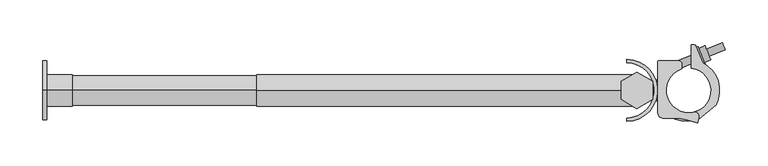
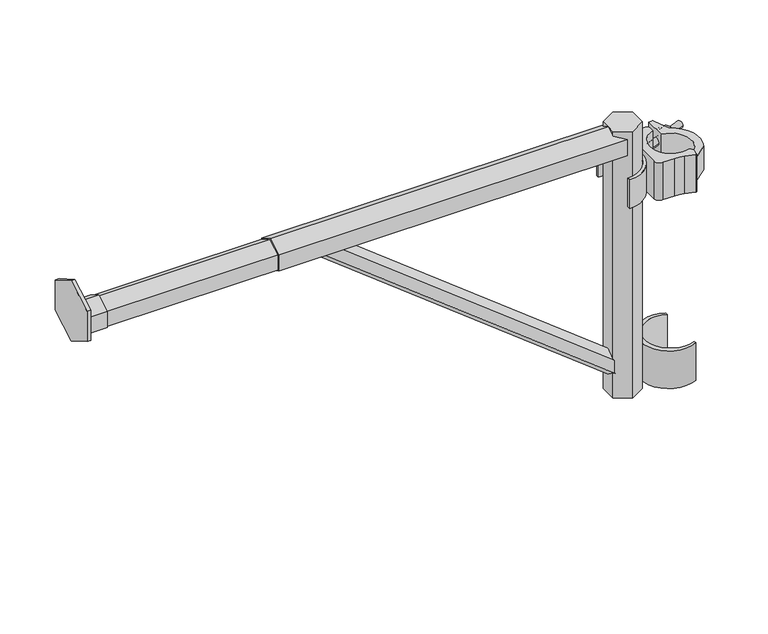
"""IFC4 building model written with IfcOpenShell, lengths in millimetres: proxy geometry, AK_伸縮ブラケット750_軽 : AK_伸縮ブラケット750_軽."""

import ifcopenshell
import ifcopenshell.guid

model = None  # the IFC model being written
_history = None  # IfcOwnerHistory: only IFC2X3 demands one
_inside = {}  # id of a spatial element -> (the spatial element, [elements in it])
_under = {}  # id of a project, library or spatial element -> (it, [spatial elements below it])
_declared = {}  # id of a project -> (the project, [libraries it declares])
_typed = {}  # id of a type object -> (the type object, [elements of that type])
_made_of = {}  # id of a material, layer set ... -> (it, [elements and type objects made of it])


def new_model(schema):
    """Start an empty IFC model of exactly this schema.

    Asked for "IFC4X3", IfcOpenShell would pick the latest addendum, in which some entities
    have other attributes; the version numbers below select the first issue.
    IFC2X3 requires an IfcOwnerHistory on every rooted entity: one is made here for all.
    """
    global model, _history
    if schema == "IFC4X3":
        model = ifcopenshell.file(schema_version=(4, 3, 0, 0))
    else:
        model = ifcopenshell.file(schema=schema)
    _inside.clear()
    _under.clear()
    _declared.clear()
    _typed.clear()
    _made_of.clear()
    _history = None
    if model.schema == "IFC2X3":
        org = make("IfcOrganization", Name="unknown")
        user = make(
            "IfcPersonAndOrganization",
            ThePerson=make("IfcPerson", FamilyName="unknown"),
            TheOrganization=org,
        )
        app = make(
            "IfcApplication",
            ApplicationDeveloper=org,
            Version="unknown",
            ApplicationFullName="unknown",
            ApplicationIdentifier="unknown",
        )
        _history = make(
            "IfcOwnerHistory",
            OwningUser=user,
            OwningApplication=app,
            ChangeAction="ADDED",
            CreationDate=0,
        )
    return model


def make(cls, **values):
    """One entity of the class cls with the attributes given. An attribute that is None is left unset."""
    return model.create_entity(
        cls, **{name: value for name, value in values.items() if value is not None}
    )


def rooted(cls, **values):
    """An entity with a GlobalId (a new one), such as an element, a storey or a relation."""
    return make(cls, GlobalId=ifcopenshell.guid.new(), OwnerHistory=_history, **values)


def si_unit(unit_type, name, prefix=None):
    """IfcSIUnit, for example si_unit("LENGTHUNIT", "METRE", prefix="MILLI")."""
    return make("IfcSIUnit", UnitType=unit_type, Prefix=prefix, Name=name)


def assignment(units):
    """IfcUnitAssignment: the units of a project."""
    return None if units is None else make("IfcUnitAssignment", Units=units)


def point(xyz):
    """IfcCartesianPoint."""
    return None if xyz is None else make("IfcCartesianPoint", Coordinates=xyz)


def direction(xyz):
    """IfcDirection."""
    return None if xyz is None else make("IfcDirection", DirectionRatios=xyz)


def frame(location, z_axis=None, x_axis=None):
    """IfcAxis2Placement3D, a coordinate frame: its origin and axes. An axis left out is left unset."""
    return make(
        "IfcAxis2Placement3D",
        Location=point(location),
        Axis=direction(z_axis),
        RefDirection=direction(x_axis),
    )


def frame_2d(location, x_axis=None):
    """IfcAxis2Placement2D, a coordinate frame in the plane: its origin and x axis."""
    return make(
        "IfcAxis2Placement2D", Location=point(location), RefDirection=direction(x_axis)
    )


def origin():
    """The frame at (0, 0, 0) with its axes left unset."""
    return frame((0.0, 0.0, 0.0))


def place(relative_to, where):
    """IfcLocalPlacement: puts the frame where relative to a parent placement (None: the world)."""
    return make(
        "IfcLocalPlacement", PlacementRelTo=relative_to, RelativePlacement=where
    )


def context(
    kind, dimensions, precision=None, world=None, true_north=None, identifier=None
):
    """IfcGeometricRepresentationContext, for example the 3D "Model" context."""
    return make(
        "IfcGeometricRepresentationContext",
        ContextIdentifier=identifier,
        ContextType=kind,
        CoordinateSpaceDimension=dimensions,
        Precision=precision,
        WorldCoordinateSystem=world,
        TrueNorth=true_north,
    )


def project(units=None, contexts=None):
    """IfcProject with its units and contexts."""
    return rooted(
        "IfcProject",
        Name="project",
        RepresentationContexts=contexts,
        UnitsInContext=assignment(units),
    )


def spatial(cls, under=None, at=None, **own):
    """A site, building, storey or space (cls), placed at a placement, below another one or the project."""
    s = rooted(cls, ObjectPlacement=at, **own)
    if under is not None:
        _under.setdefault(under.id(), (under, []))[1].append(s)
    return s


def polyline(points):
    """IfcPolyline through the points."""
    return make("IfcPolyline", Points=[point(p) for p in points])


def circle_curve(where, radius):
    """IfcCircle in the frame where."""
    return make("IfcCircle", Position=where, Radius=radius)


def trimmed(basis, trim1, trim2, sense, master):
    """IfcTrimmedCurve: the piece of a basis curve between two trims."""
    return make(
        "IfcTrimmedCurve",
        BasisCurve=basis,
        Trim1=trim1,
        Trim2=trim2,
        SenseAgreement=sense,
        MasterRepresentation=master,
    )


def segment(curve, same_sense, transition):
    """IfcCompositeCurveSegment."""
    return make(
        "IfcCompositeCurveSegment",
        Transition=transition,
        SameSense=same_sense,
        ParentCurve=curve,
    )


def composite_curve(segments, self_intersect=None):
    """IfcCompositeCurve: segments joined end to end."""
    return make("IfcCompositeCurve", Segments=segments, SelfIntersect=self_intersect)


def outline(outer, holes=None, kind="AREA"):
    """IfcArbitraryClosedProfileDef: a profile drawn as a closed curve; with holes, ...WithVoids."""
    if holes is None:
        return make("IfcArbitraryClosedProfileDef", ProfileType=kind, OuterCurve=outer)
    return make(
        "IfcArbitraryProfileDefWithVoids",
        ProfileType=kind,
        OuterCurve=outer,
        InnerCurves=holes,
    )


def extrude(swept, where, along, depth):
    """IfcExtrudedAreaSolid: the profile swept, set in the frame where, extruded along a direction by depth."""
    return make(
        "IfcExtrudedAreaSolid",
        SweptArea=swept,
        Position=where,
        ExtrudedDirection=direction(along),
        Depth=depth,
    )


def faces_of(points, faces, orient=None, outer=None):
    """IfcFace entities. A face is a list of loops; a loop is a list of indices into points, from 0.

    orient and outer hold one flag for each loop. By default every Orientation is true, the
    first loop of a face is its IfcFaceOuterBound and the others are IfcFaceBound.
    """
    made = []
    for i, loops in enumerate(faces):
        bounds = []
        for j, loop in enumerate(loops):
            is_outer = j == 0 if outer is None else outer[i][j]
            bounds.append(
                make(
                    "IfcFaceOuterBound" if is_outer else "IfcFaceBound",
                    Bound=make("IfcPolyLoop", Polygon=[points[k] for k in loop]),
                    Orientation=True if orient is None else orient[i][j],
                )
            )
        made.append(make("IfcFace", Bounds=bounds))
    return made


def faceted_brep(points, faces, orient=None, outer=None, voids=None):
    """IfcFacetedBrep: a solid bounded by flat faces; with voids (closed shells), ...WithVoids."""
    shared = [point(p) for p in points]
    hull = make("IfcClosedShell", CfsFaces=faces_of(shared, faces, orient, outer))
    if voids is None:
        return make("IfcFacetedBrep", Outer=hull)
    return make(
        "IfcFacetedBrepWithVoids",
        Outer=hull,
        Voids=[
            make(cls, CfsFaces=faces_of(shared, fs, o, b)) for cls, fs, o, b in voids
        ],
    )


def shape(context_of_items, identifier, shape_type, items):
    """IfcShapeRepresentation: the items that make up one representation, for example the "Body"."""
    return make(
        "IfcShapeRepresentation",
        ContextOfItems=context_of_items,
        RepresentationIdentifier=identifier,
        RepresentationType=shape_type,
        Items=items,
    )


def source(mapping_origin, context_of_items, identifier, shape_type, items):
    """IfcRepresentationMap: a shape defined once, which mapped items show again and again."""
    return make(
        "IfcRepresentationMap",
        MappingOrigin=mapping_origin,
        MappedRepresentation=shape(context_of_items, identifier, shape_type, items),
    )


def transform(
    local_origin,
    x_axis=None,
    y_axis=None,
    z_axis=None,
    scale=None,
    scale2=None,
    scale3=None,
    uniform=True,
):
    """IfcCartesianTransformationOperator3D, or its non-uniform kind. x_axis, y_axis, z_axis: its Axis1, 2, 3."""
    if uniform:
        return make(
            "IfcCartesianTransformationOperator3D",
            Axis1=direction(x_axis),
            Axis2=direction(y_axis),
            LocalOrigin=point(local_origin),
            Scale=scale,
            Axis3=direction(z_axis),
        )
    return make(
        "IfcCartesianTransformationOperator3DnonUniform",
        Axis1=direction(x_axis),
        Axis2=direction(y_axis),
        LocalOrigin=point(local_origin),
        Scale=scale,
        Axis3=direction(z_axis),
        Scale2=scale2,
        Scale3=scale3,
    )


def mapped(mapping_source, mapping_target):
    """IfcMappedItem: shows the shape of a source again, moved by a transform."""
    return make(
        "IfcMappedItem", MappingSource=mapping_source, MappingTarget=mapping_target
    )


def made_of(thing, what):
    """Note that an element or type object is made of a material, layer set ...; save() writes the relation."""
    if what is not None:
        _made_of.setdefault(what.id(), (what, []))[1].append(thing)
    return thing


def element(
    cls,
    number,
    at=None,
    inside=None,
    cuts=None,
    type_object=None,
    material=None,
    context=None,
    identifier="Body",
    shape_type=None,
    held_by="IfcProductDefinitionShape",
    body=None,
    shapes=None,
    **own,
):
    """One element of the class cls, such as IfcWall. Its Tag is "e" and its number.

    at: its placement. inside: the storey or other place that contains it. cuts: it is an
    opening in that element (IfcRelVoidsElement). A single representation is given by context,
    identifier, shape_type and body (its items); several are given by shapes. held_by: the class
    of the entity that holds the representations. save() writes the other relations.
    """
    e = rooted(cls, Tag="e%d" % number, ObjectPlacement=at, **own)
    if body is not None:
        shapes = [shape(context, identifier, shape_type, body)]
    if shapes is not None:
        e.Representation = make(held_by, Representations=shapes)
    if inside is not None:
        _inside.setdefault(inside.id(), (inside, []))[1].append(e)
    if cuts is not None:
        rooted(
            "IfcRelVoidsElement", RelatingBuildingElement=cuts, RelatedOpeningElement=e
        )
    if type_object is not None:
        _typed.setdefault(type_object.id(), (type_object, []))[1].append(e)
    return made_of(e, material)


def aggregate(whole, parts):
    """IfcRelAggregates: a whole, such as a stair, and the parts it consists of."""
    return rooted("IfcRelAggregates", RelatingObject=whole, RelatedObjects=parts)


def save(model, path):
    """Write the relations noted so far, then the file.

    IfcRelAggregates (storeys below a building ...), IfcRelContainedInSpatialStructure (elements
    in a storey), IfcRelDefinesByType, IfcRelAssociatesMaterial and IfcRelDeclares: one each for
    every whole, place, type object, material and project.
    """
    for whole, parts in _under.values():
        aggregate(whole, parts)
    for where, things in _inside.values():
        rooted(
            "IfcRelContainedInSpatialStructure",
            RelatedElements=things,
            RelatingStructure=where,
        )
    for kind, things in _typed.values():
        rooted("IfcRelDefinesByType", RelatedObjects=things, RelatingType=kind)
    for what, things in _made_of.values():
        rooted("IfcRelAssociatesMaterial", RelatedObjects=things, RelatingMaterial=what)
    for by, libraries in _declared.values():
        rooted("IfcRelDeclares", RelatingContext=by, RelatedDefinitions=libraries)
    model.write(path)


def plane_surface(at):
    """IfcPlane: the flat surface through the origin of the frame at, square to its z axis."""
    return make("IfcPlane", Position=at)


def cylinder_surface(at, radius):
    """IfcCylindricalSurface: all points at the distance radius from the z axis of the frame at."""
    return make("IfcCylindricalSurface", Position=at, Radius=radius)


def revolved_surface(curve, axis_point, axis_direction):
    """IfcSurfaceOfRevolution: the curve turned about the line through axis_point along axis_direction."""
    return make(
        "IfcSurfaceOfRevolution",
        SweptCurve=make("IfcArbitraryOpenProfileDef", ProfileType="CURVE", Curve=curve),
        AxisPosition=make("IfcAxis1Placement", Location=point(axis_point), Axis=direction(axis_direction)),
    )


def advanced_brep(points, edges, surfaces, faces):
    """IfcAdvancedBrep: a solid bounded by faces that lie on surfaces and meet in shared edges.

    An edge is (start, end): straight between two places in points (the first is 0);
    or (start, end, curve); or (start, end, curve, False) where it runs against its curve.
    A face is (place in surfaces, loops), or (place, loops, False) where it looks against
    its surface's normal. A loop lists edges by number (the first is 1), with a minus sign
    where the edge is run from its end to its start. The first loop is the outer one.
    """
    corners = [point(p) for p in points]
    vertices = [make("IfcVertexPoint", VertexGeometry=c) for c in corners]
    made = []
    for start, end, *more in edges:
        made.append(
            make(
                "IfcEdgeCurve",
                EdgeStart=vertices[start],
                EdgeEnd=vertices[end],
                EdgeGeometry=more[0] if more else make("IfcPolyline", Points=[corners[start], corners[end]]),
                SameSense=more[1] if len(more) > 1 else True,
            )
        )
    hull = []
    for where, loops, *sense in faces:
        bounds = []
        for j, loop in enumerate(loops):
            ring = [make("IfcOrientedEdge", EdgeElement=made[abs(k) - 1], Orientation=k > 0) for k in loop]
            bounds.append(
                make(
                    "IfcFaceOuterBound" if j == 0 else "IfcFaceBound",
                    Bound=make("IfcEdgeLoop", EdgeList=ring),
                    Orientation=True,
                )
            )
        hull.append(make("IfcAdvancedFace", Bounds=bounds, FaceSurface=surfaces[where], SameSense=sense[0] if sense else True))
    return make("IfcAdvancedBrep", Outer=make("IfcClosedShell", CfsFaces=hull))


def generic_models_3d49bad1(model_context):
    return source(origin(), model_context, "Body", "SolidModel", [
        faceted_brep([(-504.3999998, -18.4896424, 10.675), (-504.3999998, 0.0, 21.35), (-504.3999998, 18.4896424, 10.675), (-504.3999998, 18.4896424, -10.675), (-504.3999998, 0.0, -21.35), (-504.3999998, -18.4896424, -10.675), (-41.8603576, 10.675, 21.35), (-60.35, 21.35, 21.35), (-78.8396424, 10.675, 21.35), (-78.8396424, 0.0, 21.35), (-78.8396424, -10.675, 21.35), (-60.35, -21.35, 21.35), (-41.8603576, -10.675, 21.35), (-41.8603576, 10.675, -333.65), (-41.8603576, -10.675, -333.65), (-60.35, -21.35, -333.65), (-78.8396424, -10.675, -333.65), (-78.8396424, 10.675, -333.65), (-60.35, 21.35, -333.65), (-65.3042847, -18.4896424, -10.675), (-65.3042847, -18.4896424, 10.675), (-78.8396424, 0.0, -21.35), (-78.8396424, -10.675, -15.1867859), (-65.3042847, 18.4896424, -10.675), (-78.8396424, 10.675, -15.1867859), (-65.3042847, 18.4896424, 10.675), (-78.8396424, 10.675, 15.1867859), (-78.8396424, -10.675, 15.1867859)], [[[0, 1, 2, 3, 4, 5]], [[6, 7, 8, 9, 10, 11, 12]], [[13, 14, 15, 16, 17, 18]], [[0, 5, 19, 20]], [[5, 4, 21, 22, 19]], [[4, 3, 23, 24, 21]], [[3, 2, 25, 23]], [[2, 1, 9, 26, 25]], [[1, 0, 20, 27, 9]], [[6, 12, 14, 13]], [[12, 11, 15, 14]], [[11, 10, 27, 20, 19, 22, 16, 15]], [[9, 8, 26]], [[10, 9, 27]], [[17, 16, 22, 21, 24]], [[8, 7, 18, 17, 24, 23, 25, 26]], [[7, 6, 13, 18]]]),
        faceted_brep([(-404.0, 17.3205081, 10.0), (-404.0, 0.0, 20.0), (-404.0, -17.3205081, 10.0), (-404.0, -17.3205081, -10.0), (-404.0, 0.0, -20.0), (-404.0, 17.3205081, -10.0), (-720.0, 18.4896424, 10.675), (-720.0, 0.0, 21.35), (-720.0, -18.4896424, 10.675), (-720.0, -18.4896424, -10.675), (-720.0, 0.0, -21.35), (-720.0, 18.4896424, -10.675), (-720.0, 17.3205081, 10.0), (-720.0, 17.3205081, -10.0), (-720.0, 0.0, -20.0), (-720.0, -17.3205081, -10.0), (-720.0, -17.3205081, 10.0), (-720.0, 0.0, 20.0), (-754.6000002, 34.6410162, 32.85), (-754.6000002, 34.6410162, -7.15), (-754.6000002, 0.0, -27.15), (-754.6000002, -34.6410162, -7.15), (-754.6000002, -34.6410162, 32.85), (-754.6000002, 0.0, 52.85), (-750.0, 34.6410162, 32.85), (-750.0, 0.0, 52.85), (-750.0, -34.6410162, 32.85), (-750.0, -34.6410162, -7.15), (-750.0, 0.0, -27.15), (-750.0, 34.6410162, -7.15), (-750.0, 18.4896424, 10.675), (-750.0, 18.4896424, -10.675), (-750.0, 0.0, -21.35), (-750.0, -18.4896424, -10.675), (-750.0, -18.4896424, 10.675), (-750.0, 0.0, 21.35)], [[[0, 1, 2, 3, 4, 5]], [[6, 7, 8, 9, 10, 11], [12, 13, 14, 15, 16, 17]], [[18, 19, 20, 21, 22, 23]], [[24, 25, 26, 27, 28, 29], [30, 31, 32, 33, 34, 35]], [[0, 5, 13, 12]], [[5, 4, 14, 13]], [[4, 3, 15, 14]], [[3, 2, 16, 15]], [[2, 1, 17, 16]], [[1, 0, 12, 17]], [[6, 11, 31, 30]], [[11, 10, 32, 31]], [[10, 9, 33, 32]], [[9, 8, 34, 33]], [[8, 7, 35, 34]], [[7, 6, 30, 35]], [[19, 18, 24, 29]], [[20, 19, 29, 28]], [[21, 20, 28, 27]], [[22, 21, 27, 26]], [[23, 22, 26, 25]], [[18, 23, 25, 24]]]),
        extrude(outline(composite_curve([segment(trimmed(circle_curve(frame_2d((-72.4772304, 0.0)), 32.35), [point((-72.4772304, -32.35))], [point((-72.4772304, 32.35))], True, "CARTESIAN"), True, "CONTINUOUS"), segment(polyline([(-72.4772304, 32.35), (-72.4772304, 36.239624)]), True, "CONTINUOUS"), segment(trimmed(circle_curve(frame_2d((-72.4772304, 0.0)), 36.239624), [point((-72.4772304, 36.239624))], [point((-72.4772304, -36.239624))], False, "CARTESIAN"), True, "CONTINUOUS"), segment(polyline([(-72.4772304, -36.239624), (-72.4772304, -32.35)]), True, "CONTINUOUS")], self_intersect=False)), frame((0.0, 0.0, -67.65), z_axis=(0.0, 0.0, 1.0), x_axis=(1.0, 0.0, 0.0)), (0.0, 0.0, 1.0), 38.0),
        extrude(outline(polyline([(0.0, 0.0), (13.6, 0.0), (20.4, -11.7779455), (13.6, -23.555891), (0.0, -23.555891), (-6.8, -11.7779455), (0.0, 0.0)])), frame((-63.6563584, -11.7779455, -294.1763247), z_axis=(-0.7876247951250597, 0.0, 0.6161551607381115), x_axis=(-0.6161551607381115, 0.0, -0.7876247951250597)), (0.0, 0.0, 1.0), 473.9143543),
        extrude(outline(composite_curve([segment(polyline([(12.8278662, -29.48023), (12.8278662, -32.6775639)]), True, "CONTINUOUS"), segment(trimmed(circle_curve(frame_2d((-2.787596, -0.0050136)), 36.212404), [point((12.8278662, -32.6775639))], [point((12.6094193, 32.7710466))], False, "CARTESIAN"), True, "CONTINUOUS"), segment(polyline([(12.6094193, 32.7710466), (12.6094193, 29.6503278)]), True, "CONTINUOUS"), segment(trimmed(circle_curve(frame_2d((-0.3482518, 0.0367756)), 32.3243517), [point((12.6094193, 29.6503278))], [point((12.8278662, -29.48023))], True, "CARTESIAN"), True, "CONTINUOUS")], self_intersect=False)), frame((0.0, 0.0, -328.65), z_axis=(0.0, 0.0, 1.0), x_axis=(1.0, 0.0, 0.0)), (0.0, 0.0, 1.0), 50.0),
        advanced_brep(
        [(-9.2308684, 26.118126, -48.65), (-12.615213, 34.457563, -48.65), (11.5789843, 44.2761518, -48.65), (14.963329, 35.9367148, -48.65), (-10.9230407, 30.2878445, -48.65), (42.761451, 47.2178639, -48.65), (39.3771068, 55.5572996, -48.65), (41.0692789, 51.3875817, -48.65), (24.229369, 39.6970964, -48.65), (20.8450237, 48.036535, -48.65), (25.921541, 35.5273788, -48.65), (19.1528517, 52.2062526, -48.65), (18.5087077, 32.5190735, -48.65), (11.7400193, 49.1979451, -48.65), (19.260785, 30.6658636, -48.65), (10.9879421, 51.051155, -48.65), (17.4075743, 29.913793, -48.65), (9.1347363, 50.2990724, -48.65)],
        [
            (0, 1, circle_curve(frame((-10.9230407, 30.2878445, -48.65), z_axis=(0.9266041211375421, 0.37603829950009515, 0.0), x_axis=(-0.37603829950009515, 0.9266041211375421, 0.0)), 4.4999999)),
            (1, 2),
            (2, 3, circle_curve(frame((13.2711567, 40.1064333, -48.65), z_axis=(-0.9266041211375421, -0.37603829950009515, 0.0), x_axis=(-0.37603829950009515, 0.9266041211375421, 0.0)), 4.4999999)),
            (3, 0),
            (1, 0, circle_curve(frame((-10.9230407, 30.2878445, -48.65), z_axis=(0.9266041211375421, 0.37603829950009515, 0.0), x_axis=(-0.37603829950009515, 0.9266041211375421, 0.0)), 4.4999999)),
            (3, 2, circle_curve(frame((13.2711567, 40.1064333, -48.65), z_axis=(-0.9266041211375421, -0.37603829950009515, 0.0), x_axis=(-0.37603829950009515, 0.9266041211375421, 0.0)), 4.4999999)),
            (4, 1),
            (0, 4),
            (5, 6, circle_curve(frame((41.0692789, 51.3875817, -48.65), z_axis=(0.9266041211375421, 0.37603829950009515, 0.0), x_axis=(-0.37603829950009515, 0.9266041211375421, 0.0)), 4.4999993)),
            (6, 7),
            (7, 5),
            (6, 5, circle_curve(frame((41.0692789, 51.3875817, -48.65), z_axis=(0.9266041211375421, 0.37603829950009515, 0.0), x_axis=(-0.37603829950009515, 0.9266041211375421, 0.0)), 4.4999993)),
            (8, 9, circle_curve(frame((22.5371964, 43.8668157, -48.65), z_axis=(0.9266041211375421, 0.37603829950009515, 0.0), x_axis=(-0.37603829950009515, 0.9266041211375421, 0.0)), 4.5000008)),
            (9, 6),
            (5, 8),
            (9, 8, circle_curve(frame((22.5371964, 43.8668157, -48.65), z_axis=(0.9266041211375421, 0.37603829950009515, 0.0), x_axis=(-0.37603829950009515, 0.9266041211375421, 0.0)), 4.5000008)),
            (10, 11, circle_curve(frame((22.5371964, 43.8668157, -48.65), z_axis=(0.9266041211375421, 0.37603829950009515, 0.0), x_axis=(-0.37603829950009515, 0.9266041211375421, 0.0)), 8.9999998)),
            (11, 9),
            (8, 10),
            (11, 10, circle_curve(frame((22.5371964, 43.8668157, -48.65), z_axis=(0.9266041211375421, 0.37603829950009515, 0.0), x_axis=(-0.37603829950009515, 0.9266041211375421, 0.0)), 8.9999998)),
            (12, 13, circle_curve(frame((15.1243635, 40.8585093, -48.65), z_axis=(0.9266041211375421, 0.37603829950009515, 0.0), x_axis=(-0.37603829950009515, 0.9266041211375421, 0.0)), 8.9999986)),
            (13, 11),
            (10, 12),
            (13, 12, circle_curve(frame((15.1243635, 40.8585093, -48.65), z_axis=(0.9266041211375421, 0.37603829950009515, 0.0), x_axis=(-0.37603829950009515, 0.9266041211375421, 0.0)), 8.9999986)),
            (14, 15, circle_curve(frame((15.1243635, 40.8585093, -48.65), z_axis=(0.9266041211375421, 0.37603829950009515, 0.0), x_axis=(-0.37603829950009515, 0.9266041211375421, 0.0)), 11.0000004)),
            (15, 13),
            (12, 14),
            (15, 14, circle_curve(frame((15.1243635, 40.8585093, -48.65), z_axis=(0.9266041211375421, 0.37603829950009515, 0.0), x_axis=(-0.37603829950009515, 0.9266041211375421, 0.0)), 11.0000004)),
            (16, 17, circle_curve(frame((13.2711553, 40.1064327, -48.65), z_axis=(0.9266041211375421, 0.37603829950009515, 0.0), x_axis=(-0.37603829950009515, 0.9266041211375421, 0.0)), 10.9999939)),
            (17, 15),
            (14, 16),
            (17, 16, circle_curve(frame((13.2711553, 40.1064327, -48.65), z_axis=(0.9266041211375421, 0.37603829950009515, 0.0), x_axis=(-0.37603829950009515, 0.9266041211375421, 0.0)), 10.9999939)),
            (2, 17),
            (16, 3),
        ],
        [
            cylinder_surface(frame((-10.9230407, 30.2878445, -48.65), z_axis=(-0.9266041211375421, -0.37603829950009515, 0.0), x_axis=(-0.37603829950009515, 0.9266041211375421, 0.0)), 4.4999999),
            plane_surface(frame((-10.9230407, 30.2878445, -48.65), z_axis=(-0.9266041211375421, -0.37603829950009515, 0.0), x_axis=(-0.37603829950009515, 0.9266041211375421, 0.0))),
            plane_surface(frame((41.0692789, 51.3875817, -48.65), z_axis=(0.9266041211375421, 0.37603829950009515, 0.0), x_axis=(-0.37603829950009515, 0.9266041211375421, 0.0))),
            cylinder_surface(frame((-10.9230407, 30.2878445, -48.65), z_axis=(-0.9266041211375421, -0.37603829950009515, 0.0), x_axis=(-0.37603829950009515, 0.9266041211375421, 0.0)), 4.5000008),
            plane_surface(frame((22.5371964, 43.8668157, -48.65), z_axis=(0.9266041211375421, 0.37603829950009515, 0.0), x_axis=(-0.37603829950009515, 0.9266041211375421, 0.0))),
            cylinder_surface(frame((-10.9230407, 30.2878445, -48.65), z_axis=(-0.9266041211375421, -0.37603829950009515, 0.0), x_axis=(-0.37603829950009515, 0.9266041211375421, 0.0)), 8.9999986),
            plane_surface(frame((15.1243635, 40.8585093, -48.65), z_axis=(0.9266041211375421, 0.37603829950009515, 0.0), x_axis=(-0.37603829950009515, 0.9266041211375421, 0.0))),
            cylinder_surface(frame((-10.9230407, 30.2878445, -48.65), z_axis=(-0.9266041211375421, -0.37603829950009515, 0.0), x_axis=(-0.37603829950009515, 0.9266041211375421, 0.0)), 10.9999939),
            plane_surface(frame((13.2711553, 40.1064327, -48.65), z_axis=(-0.9266041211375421, -0.37603829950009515, 0.0), x_axis=(-0.37603829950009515, 0.9266041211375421, 0.0))),
        ],
        [
            (0, [[1, 2, 3, 4]]),
            (0, [[5, -4, 6, -2]]),
            (1, [[7, -1, 8]]),
            (1, [[-8, -5, -7]]),
            (2, [[9, 10, 11]]),
            (2, [[12, -11, -10]]),
            (3, [[13, 14, -9, 15]]),
            (3, [[16, -15, -12, -14]]),
            (4, [[17, 18, -13, 19]]),
            (4, [[20, -19, -16, -18]]),
            (5, [[21, 22, -17, 23]]),
            (5, [[24, -23, -20, -22]]),
            (6, [[25, 26, -21, 27]]),
            (6, [[28, -27, -24, -26]]),
            (7, [[29, 30, -25, 31]]),
            (7, [[32, -31, -28, -30]]),
            (8, [[-3, 33, -29, 34]]),
            (8, [[-6, -34, -32, -33]]),
        ],
    ),
        advanced_brep(
        [(2.953176, 26.0330319, -33.15), (5.6904714, -25.5745681, -33.15), (11.994413, -31.7276248, -33.15), (11.6296233, -33.5773448, -33.15), (32.0794389, -16.7734791, -33.15), (16.4637483, 32.2394943, -33.15), (8.5386472, 51.7679076, -33.15), (6.685439, 53.015831, -33.15), (2.953176, 53.015831, -33.15), (2.953176, 26.0330319, -64.15), (2.953176, 53.015831, -64.15), (6.685439, 53.015831, -64.15), (8.5386472, 51.7679076, -64.15), (16.4637483, 32.2394943, -64.15), (32.0794389, -16.7734791, -64.15), (11.6296233, -33.5773448, -64.15), (11.994413, -31.7276248, -64.15), (5.6904713, -25.5745678, -64.15)],
        [
            (0, 1, circle_curve(frame((0.0, 0.0, -33.15), z_axis=(0.0, 0.0, -1.0), x_axis=(1.0, 0.0, 0.0)), 26.2)),
            (1, 2, circle_curve(frame((6.833073, -30.709739, -33.15), z_axis=(0.0, 0.0, -1.0), x_axis=(1.0, 0.0, 0.0)), 5.260753)),
            (2, 3),
            (3, 4),
            (4, 5, circle_curve(frame((0.0, 0.0, -33.15), z_axis=(0.0, 0.0, 1.0), x_axis=(1.0, 0.0, 0.0)), 36.2)),
            (5, 6),
            (6, 7, circle_curve(frame((6.685439, 51.015831, -33.15), z_axis=(0.0, 0.0, 1.0), x_axis=(1.0, 0.0, 0.0)), 2.0)),
            (7, 8),
            (8, 0),
            (9, 10),
            (10, 11),
            (11, 12, circle_curve(frame((6.685439, 51.015831, -64.15), z_axis=(0.0, 0.0, -1.0), x_axis=(1.0, 0.0, 0.0)), 2.0)),
            (12, 13),
            (13, 14, circle_curve(frame((0.0, 0.0, -64.15), z_axis=(0.0, 0.0, -1.0), x_axis=(1.0, 0.0, 0.0)), 36.2)),
            (14, 15),
            (15, 16),
            (16, 17, circle_curve(frame((6.833073, -30.709739, -64.15), z_axis=(0.0, 0.0, 1.0), x_axis=(1.0, 0.0, 0.0)), 5.260753)),
            (17, 9, circle_curve(frame((0.0, 0.0, -64.15), z_axis=(0.0, 0.0, 1.0), x_axis=(1.0, 0.0, 0.0)), 26.2)),
            (0, 9),
            (17, 1),
            (16, 2),
            (15, 3),
            (14, 4),
            (13, 5),
            (12, 6),
            (11, 7),
            (10, 8),
        ],
        [
            plane_surface(frame((26.2, 0.0, -33.15), z_axis=(0.0, 0.0, 1.0), x_axis=(0.0, -1.0, 0.0))),
            plane_surface(frame((26.2, 0.0, -64.15), z_axis=(0.0, 0.0, -1.0), x_axis=(0.0, 1.0, 0.0))),
            revolved_surface(polyline([(26.2, 0.0, -64.15), (26.2, 0.0, -33.15)]), (0.0, 0.0, -64.15), (0.0, 0.0, -1.0)),
            revolved_surface(polyline([(12.093826, -30.709739, -64.15), (12.093826, -30.709739, -33.15)]), (6.833073, -30.709739, -64.15), (0.0, 0.0, -1.0)),
            plane_surface(frame((11.994413, -31.7276248, -33.15), z_axis=(-0.9811028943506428, 0.19348671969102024, 0.0), x_axis=(0.0, 0.0, -1.0))),
            plane_surface(frame((11.6296233, -33.5773448, -33.15), z_axis=(0.6348703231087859, -0.7726187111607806, 0.0), x_axis=(0.0, 0.0, -1.0))),
            cylinder_surface(frame((0.0, 0.0, -64.15), z_axis=(0.0, 0.0, 1.0), x_axis=(1.0, 0.0, 0.0)), 36.2),
            plane_surface(frame((16.4637483, 32.2394943, -33.15), z_axis=(0.9266041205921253, 0.3760383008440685, 0.0), x_axis=(0.0, 0.0, -1.0))),
            cylinder_surface(frame((6.685439, 51.015831, -64.15), z_axis=(0.0, 0.0, 1.0), x_axis=(1.0, 0.0, 0.0)), 2.0),
            plane_surface(frame((6.685439, 53.015831, -33.15), z_axis=(0.0, 1.0, 0.0), x_axis=(0.0, 0.0, -1.0))),
            plane_surface(frame((2.953176, 53.015831, -33.15), z_axis=(-1.0, 0.0, 0.0), x_axis=(0.0, 0.0, -1.0))),
        ],
        [
            (0, [[1, 2, 3, 4, 5, 6, 7, 8, 9]]),
            (1, [[10, 11, 12, 13, 14, 15, 16, 17, 18]]),
            (2, [[-1, 19, -18, 20]]),
            (3, [[-2, -20, -17, 21]]),
            (4, [[-3, -21, -16, 22]]),
            (5, [[-4, -22, -15, 23]]),
            (6, [[-5, -23, -14, 24]]),
            (7, [[-6, -24, -13, 25]]),
            (8, [[-7, -25, -12, 26]]),
            (9, [[-8, -26, -11, 27]]),
            (10, [[-9, -27, -10, -19]]),
        ],
    ),
        advanced_brep(
        [(-36.239624, 32.9575626, -23.65), (-36.239624, -25.297825, -23.65), (-28.739624, -32.797825, -23.65), (-14.161594, -32.797825, -23.65), (-3.0077999, -34.3843784, -23.65), (9.6376321, -38.0561273, -23.65), (10.89758, -37.2892778, -23.65), (11.994413, -31.7276249, -23.65), (5.6904713, -25.5745677, -23.65), (-7.993719, 24.9507602, -23.65), (-7.993719, 30.4575626, -23.65), (-11.993719, 34.4575626, -23.65), (-34.739624, 34.4575626, -23.65), (-36.239624, 32.9575626, -73.65), (-34.739624, 34.4575626, -73.65), (-11.993719, 34.4575626, -73.65), (-7.993719, 30.4575626, -73.65), (-7.993719, 24.9507602, -73.65), (5.6904713, -25.5745677, -73.65), (11.994413, -31.7276249, -73.65), (10.89758, -37.2892778, -73.65), (9.6376321, -38.0561273, -73.65), (-3.0078, -34.384378, -73.65), (-14.161594, -32.797825, -73.65), (-28.739624, -32.797825, -73.65), (-36.239624, -25.297825, -73.65)],
        [
            (0, 1),
            (1, 2, circle_curve(frame((-28.739624, -25.297825, -23.65), z_axis=(0.0, 0.0, 1.0), x_axis=(1.0, 0.0, 0.0)), 7.5)),
            (2, 3),
            (3, 4, circle_curve(frame((-14.161594, -72.797825, -23.65), z_axis=(0.0, 0.0, -1.0), x_axis=(1.0, 0.0, 0.0)), 40.0)),
            (4, 5),
            (5, 6, circle_curve(frame((9.916477, -37.095791, -23.65), z_axis=(0.0, 0.0, 1.0), x_axis=(1.0, 0.0, 0.0)), 1.0000002)),
            (6, 7),
            (7, 8, circle_curve(frame((6.833073, -30.709739, -23.65), z_axis=(0.0, 0.0, 1.0), x_axis=(1.0, 0.0, 0.0)), 5.260753)),
            (8, 9, circle_curve(frame((0.0, 0.0, -23.65), z_axis=(0.0, 0.0, -1.0), x_axis=(1.0, 0.0, 0.0)), 26.1999996)),
            (9, 10),
            (10, 11, circle_curve(frame((-11.993719, 30.4575626, -23.65), z_axis=(0.0, 0.0, 1.0), x_axis=(1.0, 0.0, 0.0)), 4.0)),
            (11, 12),
            (12, 0, circle_curve(frame((-34.739624, 32.9575626, -23.65), z_axis=(0.0, 0.0, 1.0), x_axis=(1.0, 0.0, 0.0)), 1.5)),
            (13, 14, circle_curve(frame((-34.739624, 32.9575626, -73.65), z_axis=(0.0, 0.0, -1.0), x_axis=(1.0, 0.0, 0.0)), 1.5)),
            (14, 15),
            (15, 16, circle_curve(frame((-11.993719, 30.4575626, -73.65), z_axis=(0.0, 0.0, -1.0), x_axis=(1.0, 0.0, 0.0)), 4.0)),
            (16, 17),
            (17, 18, circle_curve(frame((0.0, 0.0, -73.65), z_axis=(0.0, 0.0, 1.0), x_axis=(1.0, 0.0, 0.0)), 26.1999996)),
            (18, 19, circle_curve(frame((6.833073, -30.709739, -73.65), z_axis=(0.0, 0.0, -1.0), x_axis=(1.0, 0.0, 0.0)), 5.260753)),
            (19, 20),
            (20, 21, circle_curve(frame((9.916477, -37.095791, -73.65), z_axis=(0.0, 0.0, -1.0), x_axis=(1.0, 0.0, 0.0)), 1.0000002)),
            (21, 22),
            (22, 23, circle_curve(frame((-14.161594, -72.797825, -73.65), z_axis=(0.0, 0.0, 1.0), x_axis=(1.0, 0.0, 0.0)), 40.0)),
            (23, 24),
            (24, 25, circle_curve(frame((-28.739624, -25.297825, -73.65), z_axis=(0.0, 0.0, -1.0), x_axis=(1.0, 0.0, 0.0)), 7.5)),
            (25, 13),
            (0, 13),
            (25, 1),
            (24, 2),
            (23, 3),
            (22, 4),
            (21, 5),
            (20, 6),
            (19, 7),
            (18, 8),
            (17, 9),
            (16, 10),
            (15, 11),
            (14, 12),
        ],
        [
            plane_surface(frame((-36.239624, -25.297825, -23.65), z_axis=(0.0, 0.0, 1.0), x_axis=(-4.263322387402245e-12, -1.0, 0.0))),
            plane_surface(frame((-36.239624, -25.297825, -73.65), z_axis=(0.0, 0.0, -1.0), x_axis=(4.263322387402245e-12, 1.0, 0.0))),
            plane_surface(frame((-36.239624, 32.9575626, -23.65), z_axis=(-1.0, 4.263322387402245e-12, 0.0), x_axis=(0.0, 0.0, -1.0))),
            cylinder_surface(frame((-28.739624, -25.297825, -73.65), z_axis=(0.0, 0.0, 1.0), x_axis=(1.0, 0.0, 0.0)), 7.5),
            plane_surface(frame((-28.739624, -32.797825, -23.65), z_axis=(-1.703698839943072e-11, -1.0, 0.0), x_axis=(0.0, 0.0, -1.0))),
            revolved_surface(polyline([(25.838406, -72.797825, -73.65), (25.838406, -72.797825, -23.65)]), (-14.161594, -72.797825, -73.65), (0.0, 0.0, -1.0)),
            plane_surface(frame((-3.0078, -34.384378, -23.65), z_axis=(-0.2788448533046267, -0.9603361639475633, 0.0), x_axis=(0.0, 0.0, -1.0))),
            cylinder_surface(frame((9.916477, -37.095791, -73.65), z_axis=(0.0, 0.0, 1.0), x_axis=(1.0, 0.0, 0.0)), 1.0000002),
            plane_surface(frame((10.89758, -37.2892778, -23.65), z_axis=(0.9811028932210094, -0.19348672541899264, 0.0), x_axis=(0.0, 0.0, -1.0))),
            cylinder_surface(frame((6.833073, -30.709739, -73.65), z_axis=(0.0, 0.0, 1.0), x_axis=(1.0, 0.0, 0.0)), 5.260753),
            revolved_surface(polyline([(26.1999996, 0.0, -73.65), (26.1999996, 0.0, -23.65)]), (0.0, 0.0, -73.65), (0.0, 0.0, -1.0)),
            plane_surface(frame((-7.993719, 24.9507602, -23.65), z_axis=(1.0, 0.0, 0.0), x_axis=(0.0, 0.0, -1.0))),
            cylinder_surface(frame((-11.993719, 30.4575626, -73.65), z_axis=(0.0, 0.0, 1.0), x_axis=(1.0, 0.0, 0.0)), 4.0),
            plane_surface(frame((-11.993719, 34.4575626, -23.65), z_axis=(-1.057212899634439e-12, 1.0, 0.0), x_axis=(0.0, 0.0, -1.0))),
            cylinder_surface(frame((-34.739624, 32.9575626, -73.65), z_axis=(0.0, 0.0, 1.0), x_axis=(1.0, 0.0, 0.0)), 1.5),
        ],
        [
            (0, [[1, 2, 3, 4, 5, 6, 7, 8, 9, 10, 11, 12, 13]]),
            (1, [[14, 15, 16, 17, 18, 19, 20, 21, 22, 23, 24, 25, 26]]),
            (2, [[-1, 27, -26, 28]]),
            (3, [[-2, -28, -25, 29]]),
            (4, [[-3, -29, -24, 30]]),
            (5, [[-4, -30, -23, 31]]),
            (6, [[-5, -31, -22, 32]]),
            (7, [[-6, -32, -21, 33]]),
            (8, [[-7, -33, -20, 34]]),
            (9, [[-8, -34, -19, 35]]),
            (10, [[-9, -35, -18, 36]]),
            (11, [[-10, -36, -17, 37]]),
            (12, [[-11, -37, -16, 38]]),
            (13, [[-12, -38, -15, 39]]),
            (14, [[-13, -39, -14, -27]]),
        ],
    ),
    ])


if __name__ == "__main__":
    model = new_model("IFC4")
    model_context = context("Model", 3, world=origin())
    ifc_project = project(units=[si_unit("LENGTHUNIT", "METRE", prefix="MILLI")], contexts=[model_context])
    site = spatial("IfcSite", under=ifc_project)
    building = spatial("IfcBuilding", under=site)
    placement = place(None, origin())
    generic_models_shape = generic_models_3d49bad1(model_context)
    element("IfcBuildingElementProxy", 1, Name="AK_伸縮ブラケット750_軽 : AK_伸縮ブラケット750_軽", ObjectType="AK_伸縮ブラケット750_軽 : AK_伸縮ブラケット750_軽", at=placement, inside=building, context=model_context, shape_type="MappedRepresentation", body=[
        mapped(generic_models_shape, transform((0.0, 0.0, 0.0), x_axis=(1.0, 0.0, 0.0), y_axis=(0.0, 1.0, 0.0), z_axis=(0.0, 0.0, 1.0))),
    ])
    save(model, "model.ifc")
